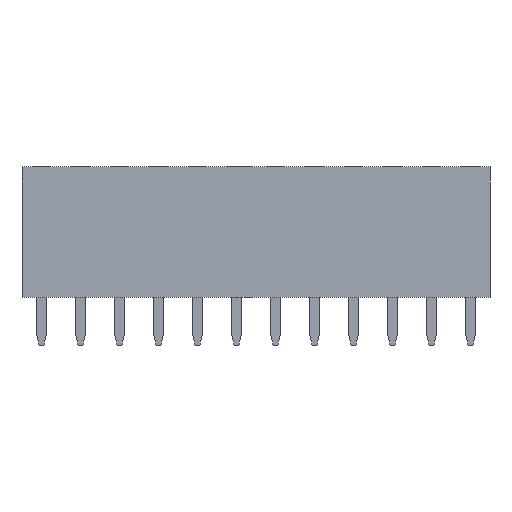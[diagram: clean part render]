
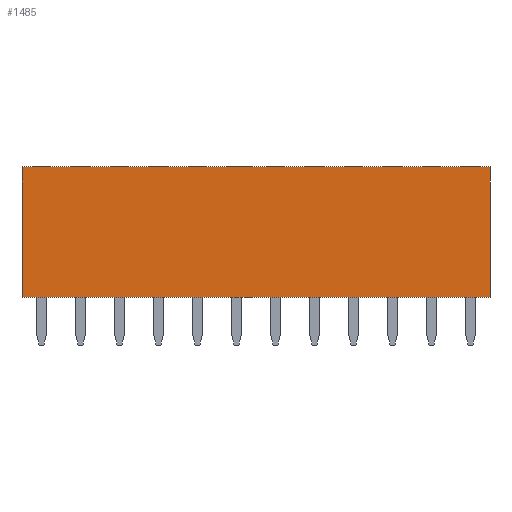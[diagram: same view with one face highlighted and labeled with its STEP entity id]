
A CAD part, left-side view. The second image highlights one B-rep face of the part: STEP entity #1485.
In plain terms, the highlighted planar face has unit normal (-1, 0, 0).
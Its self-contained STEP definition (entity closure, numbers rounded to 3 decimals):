
#62 = VERTEX_POINT('',#63);
#63 = CARTESIAN_POINT('',(-8.89,-16.51,0.));
#71 = EDGE_CURVE('',#62,#72,#74,.T.);
#72 = VERTEX_POINT('',#73);
#73 = CARTESIAN_POINT('',(-8.89,-16.51,8.5));
#74 = LINE('',#75,#76);
#75 = CARTESIAN_POINT('',(-8.89,-16.51,0.));
#76 = VECTOR('',#77,1.);
#77 = DIRECTION('',(0.,0.,1.));
#134 = VERTEX_POINT('',#135);
#135 = CARTESIAN_POINT('',(-8.89,13.97,8.5));
#141 = EDGE_CURVE('',#142,#134,#144,.T.);
#142 = VERTEX_POINT('',#143);
#143 = CARTESIAN_POINT('',(-8.89,13.97,0.));
#144 = LINE('',#145,#146);
#145 = CARTESIAN_POINT('',(-8.89,13.97,0.));
#146 = VECTOR('',#147,1.);
#147 = DIRECTION('',(0.,0.,1.));
#206 = EDGE_CURVE('',#134,#72,#207,.T.);
#207 = LINE('',#208,#209);
#208 = CARTESIAN_POINT('',(-8.89,13.97,8.5));
#209 = VECTOR('',#210,1.);
#210 = DIRECTION('',(0.,-1.,0.));
#637 = EDGE_CURVE('',#142,#62,#638,.T.);
#638 = LINE('',#639,#640);
#639 = CARTESIAN_POINT('',(-8.89,13.97,0.));
#640 = VECTOR('',#641,1.);
#641 = DIRECTION('',(0.,-1.,0.));
#1485 = ADVANCED_FACE('',(#1486),#1492,.F.);
#1486 = FACE_BOUND('',#1487,.F.);
#1487 = EDGE_LOOP('',(#1488,#1489,#1490,#1491));
#1488 = ORIENTED_EDGE('',*,*,#141,.T.);
#1489 = ORIENTED_EDGE('',*,*,#206,.T.);
#1490 = ORIENTED_EDGE('',*,*,#71,.F.);
#1491 = ORIENTED_EDGE('',*,*,#637,.F.);
#1492 = PLANE('',#1493);
#1493 = AXIS2_PLACEMENT_3D('',#1494,#1495,#1496);
#1494 = CARTESIAN_POINT('',(-8.89,13.97,0.));
#1495 = DIRECTION('',(1.,0.,0.));
#1496 = DIRECTION('',(0.,-1.,0.));
